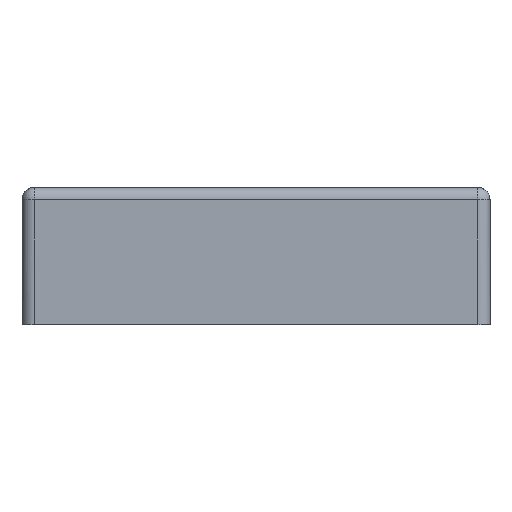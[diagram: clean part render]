
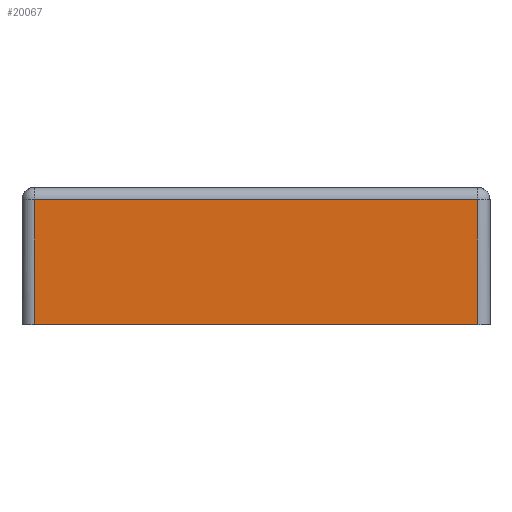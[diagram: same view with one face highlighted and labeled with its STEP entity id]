
A CAD part, front view. The second image highlights one B-rep face of the part: STEP entity #20067.
In plain terms, the highlighted planar face has unit normal (0, -1, -0.018).
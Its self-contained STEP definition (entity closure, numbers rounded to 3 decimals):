
#4032=CARTESIAN_POINT('',(42.508,-145.436,
-15.474));
#4041=DIRECTION('',(0.,0.017,-1.));
#4042=VECTOR('',#4041,15.476);
#4043=CARTESIAN_POINT('',(42.508,-145.706,
0.));
#4044=LINE('',#4043,#4042);
#4069=DIRECTION('',(1.,0.,0.));
#4070=VECTOR('',#4069,55.);
#4071=CARTESIAN_POINT('',(-12.492,-145.706,
0.));
#4072=LINE('',#4071,#4070);
#4073=DIRECTION('',(-1.,0.,0.));
#4074=VECTOR('',#4073,55.);
#4075=CARTESIAN_POINT('',(42.508,-145.436,
-15.474));
#4076=LINE('',#4075,#4074);
#4077=DIRECTION('',(0.,-0.017,1.));
#4078=VECTOR('',#4077,15.476);
#4079=CARTESIAN_POINT('',(-12.492,-145.436,-15.474));
#4080=LINE('',#4079,#4078);
#4088=CARTESIAN_POINT('',(-12.492,-145.436,-15.474));
#13814=VERTEX_POINT('',#4088);
#13960=CARTESIAN_POINT('',(-12.492,-145.706,
0.));
#13961=VERTEX_POINT('',#13960);
#15767=VERTEX_POINT('',#4032);
#16028=CARTESIAN_POINT('',(42.508,-145.706,
0.));
#16029=VERTEX_POINT('',#16028);
#20055=CARTESIAN_POINT('',(1.258,-145.571,
-7.737));
#20056=DIRECTION('',(0.,1.,0.017));
#20057=DIRECTION('',(0.,0.017,-1.));
#20058=AXIS2_PLACEMENT_3D('',#20055,#20056,#20057);
#20059=PLANE('',#20058);
#20060=ORIENTED_EDGE('',*,*,#20048,.T.);
#20061=ORIENTED_EDGE('',*,*,#20024,.T.);
#20062=ORIENTED_EDGE('',*,*,#17259,.T.);
#20064=ORIENTED_EDGE('',*,*,#20063,.T.);
#20065=EDGE_LOOP('',(#20060,#20061,#20062,#20064));
#20066=FACE_OUTER_BOUND('',#20065,.F.);
#20067=ADVANCED_FACE('',(#20066),#20059,.F.);
#17259=EDGE_CURVE('',#15767,#13814,#4076,.T.);
#20024=EDGE_CURVE('',#16029,#15767,#4044,.T.);
#20048=EDGE_CURVE('',#13961,#16029,#4072,.T.);
#20063=EDGE_CURVE('',#13814,#13961,#4080,.T.);
